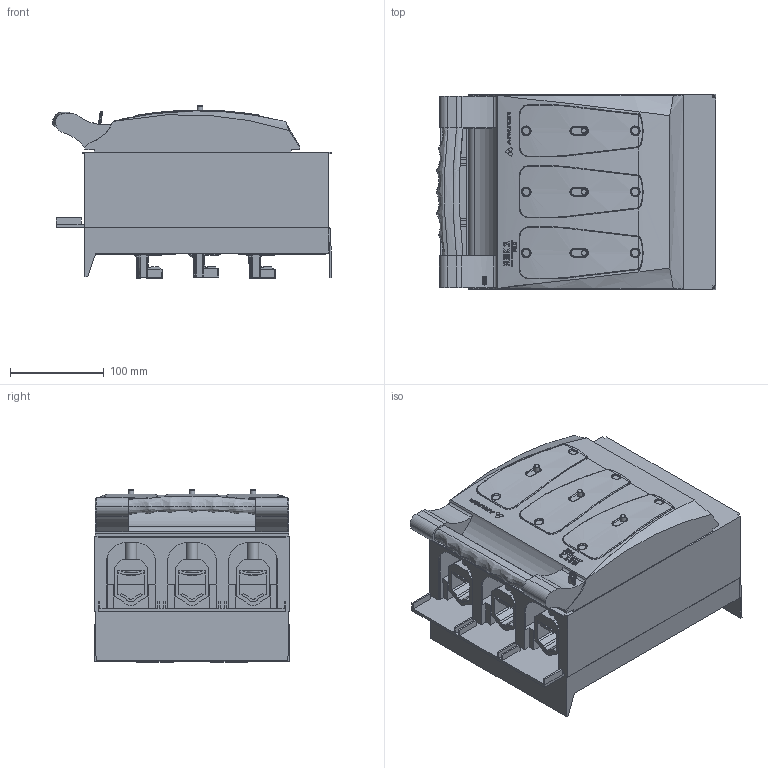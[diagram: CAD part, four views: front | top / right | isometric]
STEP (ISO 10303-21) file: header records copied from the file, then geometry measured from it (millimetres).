
FILE_DESCRIPTION(/* description */ (''),/* implementation_level */ '2;1');
FILE_NAME(/* name */ 'RBK 2 pro SG-V 60.stp',/* time_stamp */ '2020-09-04T11:45:22+02:00',/* author */ (''),/* organization */ (''),/* preprocessor_version */ 'ST-DEVELOPER v16',/* originating_system */ 'SIEMENS PLM Software NX 10.0',/* authorisation */ '');
FILE_SCHEMA (('AUTOMOTIVE_DESIGN { 1 0 10303 214 3 1 1 1 }'));
Products named in the file (1): 710_3A8450094mao
Bounding box: 297.76 x 208 x 184.12 mm (x, y, z)
Volume: 7158034.7 mm3; surface area: 424408 mm2
Topology: 1 solids, 4 shells, 2171 faces, 5929 edges, 3747 vertices
Faces by surface type: plane 1294, cylinder 389, bspline 325, extrusion 95, sphere 43, torus 16, cone 9
Full cylindrical faces by diameter (mm): 6 x3
Entity records: 81016 total; most frequent: CARTESIAN_POINT 27758, ORIENTED_EDGE 11626, DIRECTION 10670, EDGE_CURVE 5813, AXIS2_PLACEMENT_3D 3825, VERTEX_POINT 3728, VECTOR 3020, LINE 2925
